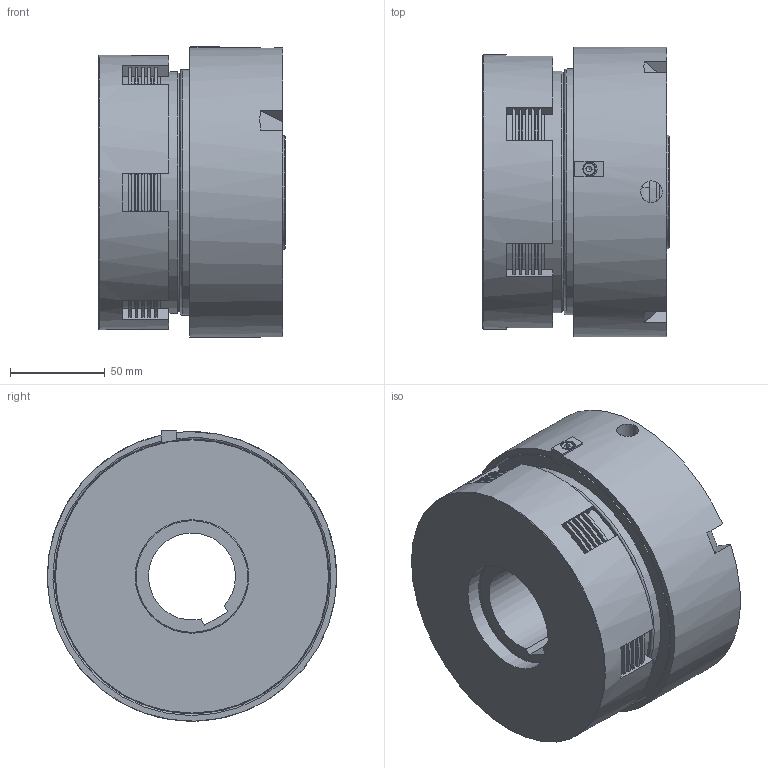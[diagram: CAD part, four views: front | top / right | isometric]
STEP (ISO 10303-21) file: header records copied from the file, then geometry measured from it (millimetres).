
FILE_DESCRIPTION(/* description */ (''),/* implementation_level */ '2;1');
FILE_NAME(/* name */ 'X:\INVENTOR\DISEGNI\03_Friz_Oleod_Pneum_Cil_Stat\03_08 LP\03_08_006_01 LP006\03_08_006_01 LP06@STEP.stp',/* time_stamp */ '2023-02-03T16:26:48+01:00',/* author */ ('alessio'),/* organization */ (''),/* preprocessor_version */ 'ST-DEVELOPER v18.1',/* originating_system */ 'Autodesk Inventor 2021',/* authorisation */ '');
FILE_SCHEMA (('AUTOMOTIVE_DESIGN { 1 0 10303 214 3 1 1 }'));
Length unit declared in the file: millimetre
Products named in the file (1): 03_08_006_01 LP06
Bounding box: 98.8 x 152.97 x 153.5 mm (x, y, z)
Volume: 1201361.9 mm3; surface area: 474870.8 mm2
Topology: 16 solids, 31 shells, 789 faces, 2141 edges, 1398 vertices
Faces by surface type: plane 398, cylinder 223, torus 77, cone 53, sphere 23, bspline 15
Full cylindrical faces by diameter (mm): 2 x3, 2.5 x4, 3.242 x1, 3.5 x18, 4.917 x6, 6 x9, 6.5 x7, 7.5 x1, 11.445 x1, 12 x6, 13 x6, 57 x2, 60 x6, 68 x1, 71.2 x2, 83.8 x2, 85 x3, 86 x1, 87 x5, 95 x3, 96 x1, 99.4 x4, 100 x4, 107 x1, 109.5 x2, 115.6 x4, 118 x1, 120 x2, 122 x1, 126 x1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
Entity records: 33048 total; most frequent: CARTESIAN_POINT 12010, DIRECTION 4249, ORIENTED_EDGE 4186, EDGE_CURVE 2093, AXIS2_PLACEMENT_3D 1645, VERTEX_POINT 1398, EDGE_LOOP 983, LINE 959
